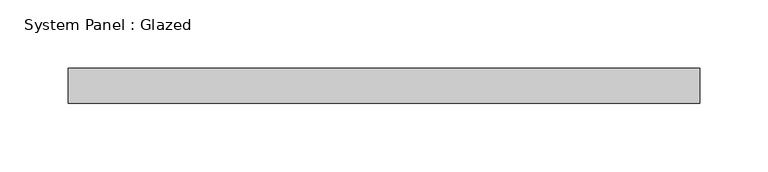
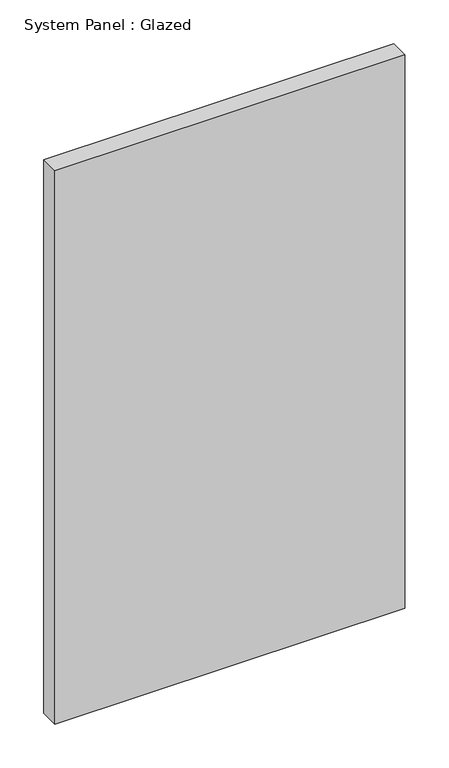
"""IFC4 building model written with IfcOpenShell, lengths in millimetres: plate geometry, System Panel : Glazed."""

from ifc_helpers import new_model, si_unit, origin, origin_with_axes, place, context, project, spatial, polyline, outline, extrude, source, transform, mapped, element, save


def system_panel_glazed_5c29f6be(model_context):
    return source(origin(), model_context, "Body", "SweptSolid", [
        extrude(outline(polyline([(230.5550234, -44.45), (-230.5550234, -44.45), (-230.5550234, -19.05), (230.5550234, -19.05), (230.5550234, -44.45)])), origin_with_axes(), (0.0, 0.0, 1.0), 770.6690025),
    ])


if __name__ == "__main__":
    model = new_model("IFC4")
    model_context = context("Model", 3, world=origin())
    ifc_project = project(units=[si_unit("LENGTHUNIT", "METRE", prefix="MILLI")], contexts=[model_context])
    site = spatial("IfcSite", under=ifc_project)
    building = spatial("IfcBuilding", under=site)
    placement = place(None, origin())
    system_panel_glazed_shape = system_panel_glazed_5c29f6be(model_context)
    element("IfcPlate", 1, ObjectType="System Panel : Glazed", at=placement, inside=building, context=model_context, shape_type="MappedRepresentation", body=[
        mapped(system_panel_glazed_shape, transform((0.0, 0.0, 0.0), x_axis=(1.0, 0.0, 0.0), y_axis=(0.0, 1.0, 0.0), z_axis=(0.0, 0.0, 1.0))),
    ])
    save(model, "model.ifc")
